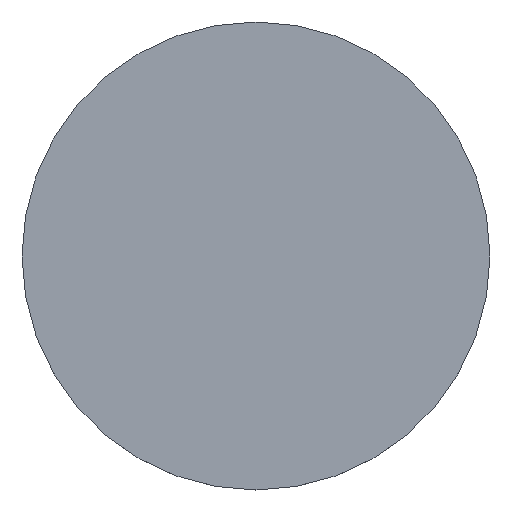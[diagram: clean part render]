
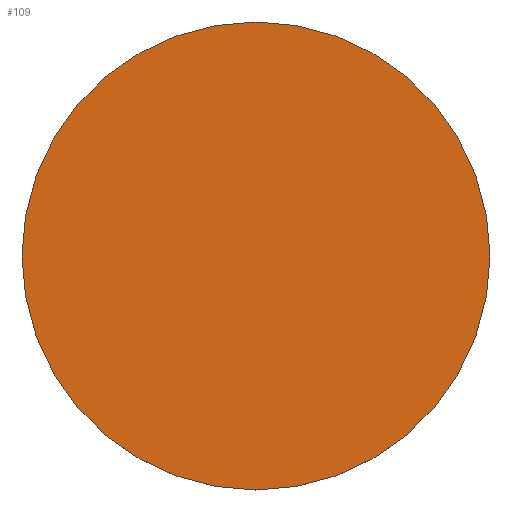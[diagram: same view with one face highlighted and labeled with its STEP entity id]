
A CAD part, top view. The second image highlights one B-rep face of the part: STEP entity #109.
In plain terms, the highlighted planar face has unit normal (0, 0, 1).
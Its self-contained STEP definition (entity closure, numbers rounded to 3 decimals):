
#24 = VERTEX_POINT('',#25);
#25 = CARTESIAN_POINT('',(7.5,43.5,5.55));
#32 = CYLINDRICAL_SURFACE('',#33,7.5);
#33 = AXIS2_PLACEMENT_3D('',#34,#35,#36);
#34 = CARTESIAN_POINT('',(0.,43.5,5.15));
#35 = DIRECTION('',(-0.,-0.,-1.));
#36 = DIRECTION('',(1.,0.,0.));
#51 = EDGE_CURVE('',#24,#24,#52,.T.);
#52 = SURFACE_CURVE('',#53,(#58,#65),.PCURVE_S1.);
#53 = CIRCLE('',#54,7.5);
#54 = AXIS2_PLACEMENT_3D('',#55,#56,#57);
#55 = CARTESIAN_POINT('',(0.,43.5,5.55));
#56 = DIRECTION('',(0.,0.,1.));
#57 = DIRECTION('',(1.,0.,0.));
#58 = PCURVE('',#32,#59);
#59 = DEFINITIONAL_REPRESENTATION('',(#60),#64);
#60 = LINE('',#61,#62);
#61 = CARTESIAN_POINT('',(-0.,-0.4));
#62 = VECTOR('',#63,1.);
#63 = DIRECTION('',(-1.,0.));
#64 = ( GEOMETRIC_REPRESENTATION_CONTEXT(2) 
PARAMETRIC_REPRESENTATION_CONTEXT() REPRESENTATION_CONTEXT('2D SPACE',''
  ) );
#65 = PCURVE('',#66,#71);
#66 = PLANE('',#67);
#67 = AXIS2_PLACEMENT_3D('',#68,#69,#70);
#68 = CARTESIAN_POINT('',(0.,43.5,5.55));
#69 = DIRECTION('',(0.,0.,1.));
#70 = DIRECTION('',(1.,0.,-0.));
#71 = DEFINITIONAL_REPRESENTATION('',(#72),#76);
#72 = CIRCLE('',#73,7.5);
#73 = AXIS2_PLACEMENT_2D('',#74,#75);
#74 = CARTESIAN_POINT('',(0.,0.));
#75 = DIRECTION('',(1.,0.));
#76 = ( GEOMETRIC_REPRESENTATION_CONTEXT(2) 
PARAMETRIC_REPRESENTATION_CONTEXT() REPRESENTATION_CONTEXT('2D SPACE',''
  ) );
#109 = ADVANCED_FACE('',(#110),#66,.T.);
#110 = FACE_BOUND('',#111,.T.);
#111 = EDGE_LOOP('',(#112));
#112 = ORIENTED_EDGE('',*,*,#51,.T.);
